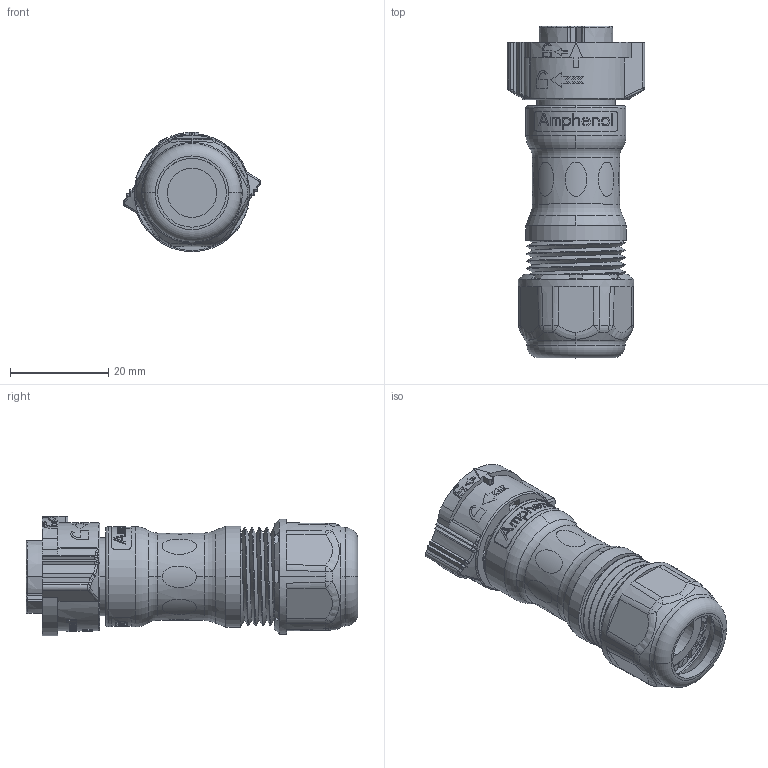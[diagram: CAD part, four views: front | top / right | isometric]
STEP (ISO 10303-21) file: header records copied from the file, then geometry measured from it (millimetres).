
FILE_DESCRIPTION((''),'2;1');
FILE_NAME('CD-09BFFA-QL8MN0','2021-10-26T',('L210038'),(''),'PRO/ENGINEER BY PARAMETRIC TECHNOLOGY CORPORATION, 2017170','PRO/ENGINEER BY PARAMETRIC TECHNOLOGY CORPORATION, 2017170','');
FILE_SCHEMA(('CONFIG_CONTROL_DESIGN'));
Products named in the file (1): CD-09BFFA-QL8MN0
Bounding box: 28 x 67.6 x 24.31 mm (x, y, z)
Volume: 15358.5 mm3; surface area: 12660.5 mm2
Topology: 3 solids, 3 shells, 1367 faces, 3729 edges, 2442 vertices
Faces by surface type: plane 610, cylinder 280, extrusion 259, cone 77, bspline 75, torus 41, sphere 25
Entity records: 64887 total; most frequent: CARTESIAN_POINT 27930, ORIENTED_EDGE 7458, DIRECTION 5133, EDGE_CURVE 3729, VERTEX_POINT 2442, B_SPLINE_CURVE_WITH_KNOTS 1896, AXIS2_PLACEMENT_3D 1749, VECTOR 1635
